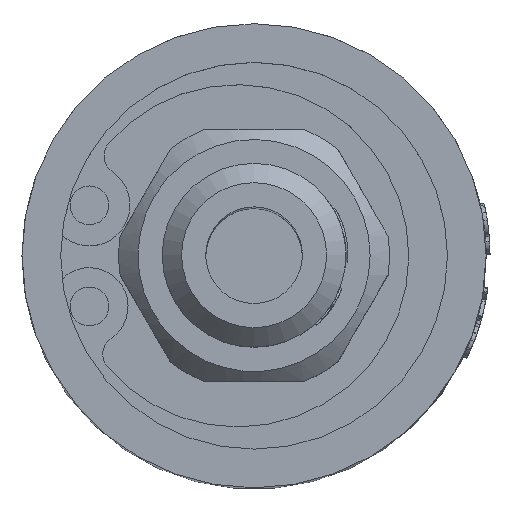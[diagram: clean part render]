
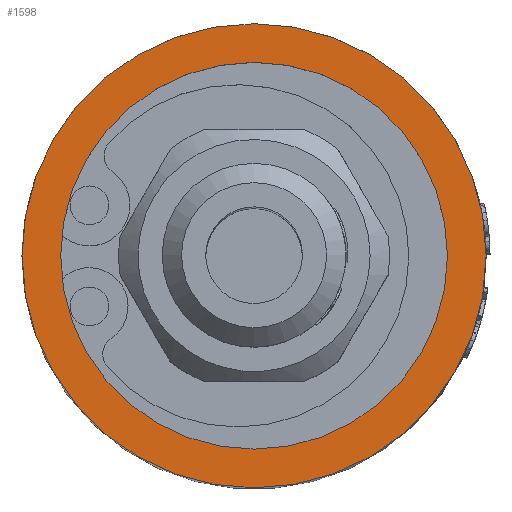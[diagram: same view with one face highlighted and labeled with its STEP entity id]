
A CAD part, top view. The second image highlights one B-rep face of the part: STEP entity #1598.
In plain terms, the highlighted planar face has unit normal (0, 0, 1).
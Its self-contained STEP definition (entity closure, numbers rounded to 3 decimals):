
#186=FACE_BOUND('',#3855,.T.);
#187=FACE_BOUND('',#3856,.T.);
#375=CIRCLE('',#18180,10.);
#381=CIRCLE('',#18192,12.);
#1598=ADVANCED_FACE('',(#186,#187),#2180,.T.);
#2180=PLANE('',#18193);
#3855=EDGE_LOOP('',(#9585));
#3856=EDGE_LOOP('',(#9586));
#9585=ORIENTED_EDGE('',*,*,#15702,.T.);
#9586=ORIENTED_EDGE('',*,*,#15716,.F.);
#13290=VERTEX_POINT('',#33597);
#13299=VERTEX_POINT('',#33626);
#15702=EDGE_CURVE('',#13290,#13290,#375,.T.);
#15716=EDGE_CURVE('',#13299,#13299,#381,.T.);
#18180=AXIS2_PLACEMENT_3D('',#33596,#20059,#20060);
#18192=AXIS2_PLACEMENT_3D('',#33625,#20091,#20092);
#18193=AXIS2_PLACEMENT_3D('',#33627,#20093,#20094);
#20059=DIRECTION('',(0.,0.,-1.));
#20060=DIRECTION('',(0.,1.,0.));
#20091=DIRECTION('',(0.,0.,-1.));
#20092=DIRECTION('',(0.,1.,0.));
#20093=DIRECTION('',(0.,0.,1.));
#20094=DIRECTION('',(0.,1.,0.));
#33596=CARTESIAN_POINT('',(0.,0.,39.));
#33597=CARTESIAN_POINT('',(0.,10.,39.));
#33625=CARTESIAN_POINT('',(0.,0.,39.));
#33626=CARTESIAN_POINT('',(0.,12.,39.));
#33627=CARTESIAN_POINT('',(0.,0.,39.));
